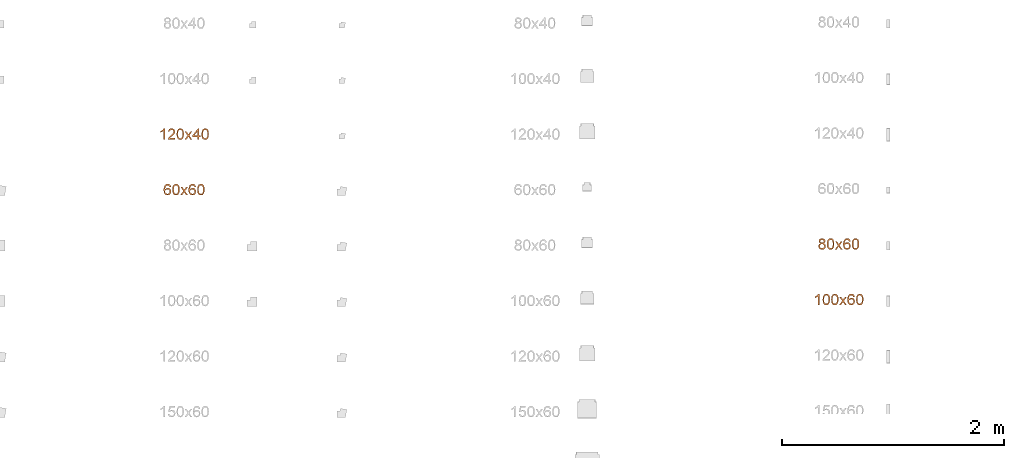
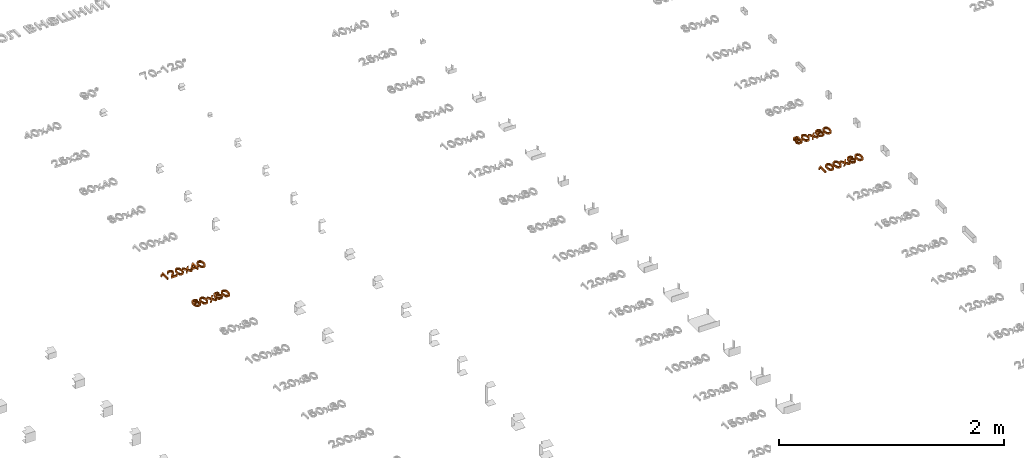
# One storey, part 59 of 71: 4 proxies.
"""IFC2X3 building model written with IfcOpenShell, lengths in millimetres."""

from ifc_helpers import new_model, entity, si_unit, converted_unit, derived_unit, direction, frame, origin, place, context, subcontext, project, spatial, polyline, outline, extrude, element, save


model = new_model("IFC2X3")

# Units and contexts
model_context = context("Model", 3, precision=0.01, world=origin(), true_north=direction((6.12303176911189e-17, 1.0)))
body_context = subcontext(model_context, "Body", "Model", "MODEL_VIEW")
ifc_project = project(units=[si_unit("LENGTHUNIT", "METRE", prefix="MILLI"), si_unit("AREAUNIT", "SQUARE_METRE"), si_unit("VOLUMEUNIT", "CUBIC_METRE"), converted_unit("PLANEANGLEUNIT", "DEGREE", entity("IfcRatioMeasure", 0.0174532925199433), si_unit("PLANEANGLEUNIT", "RADIAN"), dimensions=[0, 0, 0, 0, 0, 0, 0]), si_unit("MASSUNIT", "GRAM", prefix="KILO"), derived_unit("MASSDENSITYUNIT", [(si_unit("MASSUNIT", "GRAM", prefix="KILO"), 1), (si_unit("LENGTHUNIT", "METRE"), -3)]), si_unit("TIMEUNIT", "SECOND"), si_unit("FREQUENCYUNIT", "HERTZ"), si_unit("THERMODYNAMICTEMPERATUREUNIT", "DEGREE_CELSIUS"), derived_unit("THERMALTRANSMITTANCEUNIT", [(si_unit("MASSUNIT", "GRAM", prefix="KILO"), 1), (si_unit("THERMODYNAMICTEMPERATUREUNIT", "KELVIN"), -1), (si_unit("TIMEUNIT", "SECOND"), -3)]), derived_unit("VOLUMETRICFLOWRATEUNIT", [(si_unit("LENGTHUNIT", "METRE"), 3), (si_unit("TIMEUNIT", "SECOND"), -1)]), si_unit("ELECTRICCURRENTUNIT", "AMPERE"), si_unit("ELECTRICVOLTAGEUNIT", "VOLT"), si_unit("POWERUNIT", "WATT"), si_unit("FORCEUNIT", "NEWTON", prefix="KILO"), si_unit("ILLUMINANCEUNIT", "LUX"), si_unit("LUMINOUSFLUXUNIT", "LUMEN"), si_unit("LUMINOUSINTENSITYUNIT", "CANDELA"), derived_unit("USERDEFINED", [(si_unit("MASSUNIT", "GRAM", prefix="KILO"), -1), (si_unit("LENGTHUNIT", "METRE"), -2), (si_unit("TIMEUNIT", "SECOND"), 3), (si_unit("LUMINOUSFLUXUNIT", "LUMEN"), 1)]), derived_unit("LINEARVELOCITYUNIT", [(si_unit("LENGTHUNIT", "METRE"), 1), (si_unit("TIMEUNIT", "SECOND"), -1)]), si_unit("PRESSUREUNIT", "PASCAL"), derived_unit("USERDEFINED", [(si_unit("LENGTHUNIT", "METRE"), -2), (si_unit("MASSUNIT", "GRAM", prefix="KILO"), 1), (si_unit("TIMEUNIT", "SECOND"), -2)])], contexts=[model_context])

# Site, building, storey
site_placement = place(None, origin())
site = spatial("IfcSite", under=ifc_project, at=site_placement, Name="Default", CompositionType="ELEMENT")
building_placement = place(site_placement, origin())
building = spatial("IfcBuilding", under=site, at=building_placement, Name="Наименование здания", CompositionType="ELEMENT")
storey_placement = place(building_placement, origin())
storey = spatial("IfcBuildingStorey", under=building, at=storey_placement, Name="Этаж 01", CompositionType="ELEMENT", Elevation=0.0)

# Proxies
proxy_1_placement = place(storey_placement, origin())
element("IfcBuildingElementProxy", 1, at=proxy_1_placement, inside=storey, Name="Текст модели:100 мм Arial", ObjectType="Текст модели:100 мм Arial", context=body_context, shape_type="SweptSolid", body=[
    extrude(outline(polyline([(-63.8793021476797, -16.9184842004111), (36.5770080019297, -16.9184842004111), (36.5770080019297, -8.82508030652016), (23.2106288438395, 2.34626961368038), (11.4629304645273, 20.7526321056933), (-0.407395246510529, 20.7526321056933), (5.9324378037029, 7.53340574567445), (14.4059864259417, -4.3614454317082), (-63.8793021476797, -4.3614454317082), (-63.8793021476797, -16.9184842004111)])), frame((18050.6140165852, 600.54404634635, 0.0), z_axis=(0.0, 0.0, 1.0), x_axis=(0.0, 1.0, 0.0)), (0.0, 0.0, 1.0), 20.0),
    extrude(outline(polyline([(-32.3858783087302, -45.1669477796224), (-32.3858783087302, -57.7239865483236), (33.5385752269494, -57.7239865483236), (32.1896745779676, -49.0664969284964), (24.5622545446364, -35.736905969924), (8.84143061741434, -21.1810416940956), (-12.8390816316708, -0.260818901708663), (-18.2592096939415, 13.9639515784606), (-13.1456499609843, 25.4786580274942), (0.20846646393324, 30.1752848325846), (14.1266686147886, 25.5890226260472), (19.4119066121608, 12.9093565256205), (31.9689453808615, 14.4789863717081), (28.9247218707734, 26.6252235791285), (22.3426998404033, 35.4973110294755), (12.5662358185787, 40.9235704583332), (-0.0613136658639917, 42.7323236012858), (-12.7808336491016, 40.721235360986), (-22.5389035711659, 34.6879706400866), (-28.7469122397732, 25.6748617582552), (-30.8162484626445, 14.7242410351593), (-28.5844310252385, 2.81712712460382), (-21.1654774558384, -9.49465698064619), (-3.17604789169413, -26.6992716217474), (11.2694517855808, -38.7780637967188), (16.9348345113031, -45.1669477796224), (-32.3858783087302, -45.1669477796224)])), frame((18129.3244132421, 594.388730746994, 0.0), z_axis=(0.0, 0.0, -1.0), x_axis=(-1.0, 0.0, 0.0)), (0.0, 0.0, -1.0), 20.0),
    extrude(outline(polyline([(-7.02884310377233, -33.3490673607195), (17.5323805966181, -33.3490673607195), (35.1984171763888, -27.6137612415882), (43.3439841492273, -18.4876517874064), (47.0516941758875, -5.75150665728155), (46.7162020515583, 4.48638208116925), (43.446577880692, 13.0955287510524), (27.9444305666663, 25.6659118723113), (-0.314338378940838, 32.2325535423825), (-24.0296505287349, 32.3678288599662), (-39.4143020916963, 28.0260881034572), (-49.7293680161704, 18.9002174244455), (-54.4436715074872, 4.63998875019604), (-50.8676582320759, -14.1301059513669), (-35.4058547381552, -26.7333390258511), (-7.02884310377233, -33.3490673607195)]), holes=[polyline([(-5.77428774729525, -20.8548320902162), (-25.0157644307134, -17.3562860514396), (-36.7257089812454, -11.5717922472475), (-41.096258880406, -4.77599682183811), (-41.9669219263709, 3.21464792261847), (-39.2244253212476, 11.2791292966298), (-32.8654063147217, 17.2229259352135), (-20.9698370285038, 20.2947501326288), (-1.6176895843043, 19.7433141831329), (17.8514140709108, 16.2707701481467), (28.7803640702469, 10.7141596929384), (33.5546988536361, 3.6181595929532), (34.5599568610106, -4.47255337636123), (31.9421230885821, -12.1923199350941), (25.8471825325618, -18.175480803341), (14.0250679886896, -21.4027476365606), (-5.77428774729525, -20.8548320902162)])]), frame((18208.158867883, 582.487921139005, 0.0), z_axis=(0.0, 0.0, 1.0), x_axis=(0.1018515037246, -0.994799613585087, 0.0)), (0.0, 0.0, 1.0), 20.0),
    extrude(outline(polyline([(-34.530221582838, -38.4265006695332), (-19.422534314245, -38.4265006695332), (-0.341721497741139, -12.0616243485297), (2.47870713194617, -16.1328517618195), (17.8561745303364, -38.4265006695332), (32.9638617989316, -38.4265006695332), (7.40832586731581, -1.34399555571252), (33.944880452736, 35.3461020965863), (18.8371931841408, 35.3461020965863), (4.95577923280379, 16.1671874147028), (0.0261604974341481, 9.34910777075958), (-5.66374769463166, 17.6877663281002), (-17.8529044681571, 35.3461020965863), (-32.9605917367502, 35.3461020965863), (-7.6993614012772, -1.34399555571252), (-34.530221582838, -38.4265006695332)])), frame((18281.0005248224, 575.091244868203, 0.0)), (0.0, 0.0, 1.0), 20.0),
    extrude(outline(polyline([(-1.14154897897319, -36.3868737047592), (11.4154897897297, -36.3868737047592), (11.4154897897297, -12.8424260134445), (23.9725285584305, -12.8424260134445), (23.9725285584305, -0.285387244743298), (11.4154897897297, -0.285387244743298), (11.4154897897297, 62.4998065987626), (1.99771071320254, 62.4998065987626), (-46.6608145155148, -0.285387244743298), (-46.6608145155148, -12.8424260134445), (-1.14154897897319, -12.8424260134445), (-1.14154897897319, -36.3868737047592)]), holes=[polyline([(-1.14154897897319, -0.285387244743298), (-31.2097707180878, -0.285387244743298), (-1.14154897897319, 38.5139005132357), (-1.14154897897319, -0.285387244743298)])]), frame((18363.764460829, 573.051617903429, 0.0)), (0.0, 0.0, 1.0), 20.0),
    extrude(outline(polyline([(-7.02884310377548, -33.349067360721), (17.5323805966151, -33.349067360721), (35.1984171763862, -27.6137612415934), (43.3439841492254, -18.4876517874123), (47.051694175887, -5.75150665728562), (46.7162020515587, 4.48638208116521), (43.4465778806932, 13.0955287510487), (27.9444305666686, 25.6659118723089), (-0.31433837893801, 32.2325535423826), (-24.0296505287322, 32.3678288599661), (-39.4143020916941, 28.0260881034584), (-49.7293680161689, 18.9002174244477), (-54.4436715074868, 4.63998875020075), (-50.8676582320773, -14.1301059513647), (-35.4058547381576, -26.733339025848), (-7.02884310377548, -33.349067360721)]), holes=[polyline([(-5.7742877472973, -20.8548320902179), (-25.0157644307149, -17.3562860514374), (-36.7257089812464, -11.5717922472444), (-41.0962588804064, -4.77599682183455), (-41.9669219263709, 3.21464792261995), (-39.2244253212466, 11.2791292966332), (-32.8654063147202, 17.2229259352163), (-20.9698370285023, 20.2947501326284), (-1.61768958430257, 19.743314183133), (17.8514140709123, 16.2707701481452), (28.7803640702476, 10.7141596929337), (33.5546988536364, 3.6181595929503), (34.5599568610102, -4.47255337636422), (31.9421230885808, -12.192319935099), (25.84718253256, -18.1754808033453), (14.0250679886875, -21.402747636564), (-5.7742877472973, -20.8548320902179)])]), frame((18432.6159358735, 582.487921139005, 0.0), z_axis=(0.0, 0.0, 1.0), x_axis=(0.101851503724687, -0.994799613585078, 0.0)), (0.0, 0.0, 1.0), 20.0),
])
proxy_2_placement = place(storey_placement, origin())
element("IfcBuildingElementProxy", 2, at=proxy_2_placement, inside=storey, Name="Текст модели:100 мм Arial", ObjectType="Текст модели:100 мм Arial", context=body_context, shape_type="SweptSolid", body=[
    extrude(outline(polyline([(6.79275401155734, -32.5027761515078), (18.3659045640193, -32.5027761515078), (28.152520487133, -28.8011371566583), (35.631293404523, -21.7178704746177), (40.2809149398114, -11.5729874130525), (41.4130789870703, 3.23667074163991), (36.1391243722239, 16.3729018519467), (21.8599739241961, 28.8803269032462), (-1.50836821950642, 38.2054593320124), (-23.6059131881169, 41.7609274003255), (-39.9814227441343, 38.5965283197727), (-51.1650797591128, 29.9216784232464), (-57.6870671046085, 16.9457940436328), (-57.9805556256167, -0.0494879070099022), (-49.2081886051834, -14.3141019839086), (-33.6167855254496, -22.935056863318), (-20.6265742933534, -24.250233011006), (-8.97800352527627, -20.6254922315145), (0.0919027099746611, -13.0350962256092), (5.34612034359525, -2.45330669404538), (5.85483161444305, 11.6447254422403), (-0.843339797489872, 24.9910631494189), (19.7707676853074, 15.5765036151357), (28.4840991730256, 4.26766164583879), (28.3893512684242, -7.46374532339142), (19.995625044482, -18.1936336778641), (8.63303585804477, -19.9825396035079), (6.79275401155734, -32.5027761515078)]), holes=[polyline([(-18.7586717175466, 29.9549594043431), (-11.632811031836, 26.3613362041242), (-6.94154076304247, 20.2038317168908), (-5.85783236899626, 4.13761066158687), (-9.48331864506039, -3.95286412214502), (-15.1077394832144, -9.26901644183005), (-22.3091633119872, -11.5969098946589), (-30.6656585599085, -10.7226080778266), (-38.6094491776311, -7.06141592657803), (-43.8637090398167, -1.22509865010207), (-46.1835287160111, 6.17768396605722), (-45.3239987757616, 14.5382721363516), (-39.690117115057, 24.7221971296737), (-30.0168134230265, 30.0585493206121), (-18.7586717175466, 29.9549594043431)])]), frame((18093.7454554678, 95.2124824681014, 0.0), z_axis=(0.0, 0.0, 1.0), x_axis=(-0.267015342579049, 0.963692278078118, 0.0)), (0.0, 0.0, 1.0), 20.0),
    extrude(outline(polyline([(-7.02884310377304, -33.349067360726), (17.5323805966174, -33.349067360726), (35.1984171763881, -27.6137612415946), (43.3439841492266, -18.4876517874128), (47.0516941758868, -5.75150665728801), (46.7162020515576, 4.48638208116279), (43.4465778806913, 13.095528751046), (27.9444305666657, 25.6659118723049), (-0.314338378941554, 32.2325535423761), (-24.0296505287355, 32.3678288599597), (-39.414302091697, 28.0260881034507), (-49.7293680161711, 18.900217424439), (-54.4436715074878, 4.63998875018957), (-50.8676582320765, -14.1301059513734), (-35.4058547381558, -26.7333390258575), (-7.02884310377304, -33.349067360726)]), holes=[polyline([(-5.77428774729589, -20.8548320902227), (-25.015764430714, -17.356286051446), (-36.7257089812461, -11.571792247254), (-41.0962588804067, -4.77599682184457), (-41.9669219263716, 3.214647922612), (-39.2244253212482, 11.2791292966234), (-32.8654063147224, 17.222925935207), (-20.9698370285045, 20.2947501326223), (-1.61768958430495, 19.7433141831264), (17.8514140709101, 16.2707701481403), (28.7803640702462, 10.7141596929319), (33.5546988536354, 3.61815959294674), (34.5599568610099, -4.47255337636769), (31.9421230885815, -12.1923199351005), (25.8471825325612, -18.1754808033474), (14.0250679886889, -21.4027476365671), (-5.77428774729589, -20.8548320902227)])]), frame((18169.7029366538, 82.487921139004, 0.0), z_axis=(0.0, 0.0, 1.0), x_axis=(0.1018515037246, -0.994799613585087, 0.0)), (0.0, 0.0, 1.0), 20.0),
    extrude(outline(polyline([(-34.530221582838, -38.4265006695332), (-19.422534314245, -38.4265006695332), (-0.341721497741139, -12.0616243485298), (2.47870713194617, -16.1328517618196), (17.8561745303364, -38.4265006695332), (32.9638617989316, -38.4265006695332), (7.40832586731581, -1.34399555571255), (33.944880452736, 35.3461020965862), (18.8371931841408, 35.3461020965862), (4.95577923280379, 16.1671874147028), (0.0261604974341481, 9.34910777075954), (-5.66374769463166, 17.6877663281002), (-17.8529044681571, 35.3461020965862), (-32.9605917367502, 35.3461020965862), (-7.6993614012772, -1.34399555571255), (-34.530221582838, -38.4265006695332)])), frame((18242.5445935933, 75.0912448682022, 0.0)), (0.0, 0.0, 1.0), 20.0),
    extrude(outline(polyline([(6.79275401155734, -32.5027761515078), (18.3659045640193, -32.5027761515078), (28.1525204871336, -28.8011371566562), (35.631293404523, -21.7178704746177), (40.280914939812, -11.5729874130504), (41.4130789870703, 3.23667074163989), (36.1391243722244, 16.3729018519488), (21.8599739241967, 28.8803269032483), (-1.50836821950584, 38.2054593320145), (-23.6059131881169, 41.7609274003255), (-39.9814227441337, 38.5965283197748), (-51.1650797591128, 29.9216784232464), (-57.6870671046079, 16.9457940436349), (-57.9805556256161, -0.0494879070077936), (-49.2081886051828, -14.3141019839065), (-33.6167855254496, -22.935056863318), (-20.6265742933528, -24.2502330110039), (-8.97800352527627, -20.6254922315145), (0.0919027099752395, -13.0350962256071), (5.34612034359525, -2.45330669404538), (5.85483161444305, 11.6447254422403), (-0.843339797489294, 24.991063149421), (19.7707676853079, 15.5765036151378), (28.4840991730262, 4.26766164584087), (28.3893512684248, -7.46374532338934), (19.9956250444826, -18.1936336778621), (8.63303585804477, -19.9825396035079), (6.79275401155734, -32.5027761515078)]), holes=[polyline([(-18.758671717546, 29.9549594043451), (-11.632811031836, 26.3613362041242), (-6.94154076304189, 20.2038317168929), (-5.85783236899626, 4.13761066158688), (-9.48331864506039, -3.95286412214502), (-15.1077394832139, -9.26901644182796), (-22.3091633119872, -11.5969098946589), (-30.6656585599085, -10.7226080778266), (-38.6094491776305, -7.06141592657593), (-43.8637090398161, -1.22509865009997), (-46.1835287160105, 6.17768396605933), (-45.323998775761, 14.5382721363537), (-39.690117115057, 24.7221971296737), (-30.0168134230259, 30.0585493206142), (-18.758671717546, 29.9549594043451)])]), frame((18318.2025234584, 95.2124824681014, 0.0), z_axis=(0.0, 0.0, 1.0), x_axis=(-0.267015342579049, 0.963692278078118, 0.0)), (0.0, 0.0, 1.0), 20.0),
    extrude(outline(polyline([(-7.02884310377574, -33.3490673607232), (17.5323805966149, -33.3490673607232), (35.1984171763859, -27.6137612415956), (43.3439841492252, -18.4876517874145), (47.0516941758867, -5.7515066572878), (46.7162020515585, 4.48638208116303), (43.4465778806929, 13.0955287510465), (27.9444305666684, 25.6659118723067), (-0.314338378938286, 32.2325535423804), (-24.0296505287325, 32.367828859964), (-39.4143020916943, 28.0260881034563), (-49.7293680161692, 18.9002174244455), (-54.443671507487, 4.63998875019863), (-50.8676582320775, -14.1301059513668), (-35.4058547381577, -26.7333390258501), (-7.02884310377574, -33.3490673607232)]), holes=[polyline([(-5.7742877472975, -20.85483209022), (-25.0157644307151, -17.3562860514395), (-36.7257089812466, -11.5717922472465), (-41.0962588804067, -4.77599682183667), (-41.9669219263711, 3.21464792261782), (-39.2244253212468, 11.2791292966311), (-32.8654063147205, 17.2229259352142), (-20.9698370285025, 20.2947501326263), (-1.61768958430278, 19.7433141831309), (17.851414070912, 16.270770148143), (28.7803640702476, 10.7141596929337), (33.5546988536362, 3.61815959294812), (34.55995686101, -4.4725533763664), (31.9421230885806, -12.1923199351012), (25.8471825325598, -18.1754808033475), (14.0250679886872, -21.4027476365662), (-5.7742877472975, -20.85483209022)])]), frame((18394.1600046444, 82.487921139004, 0.0), z_axis=(0.0, 0.0, 1.0), x_axis=(0.101851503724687, -0.994799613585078, 0.0)), (0.0, 0.0, 1.0), 20.0),
])
proxy_3_placement = place(storey_placement, origin())
element("IfcBuildingElementProxy", 3, at=proxy_3_placement, inside=storey, Name="Текст модели:100 мм Arial", ObjectType="Текст модели:100 мм Arial", context=body_context, shape_type="SweptSolid", body=[
    extrude(outline(polyline([(10.1224324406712, -11.221212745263), (26.4477736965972, -11.221212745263), (39.6861381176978, -0.090941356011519), (44.6322314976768, 11.3078156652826), (44.5856416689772, 23.416860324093), (39.6073830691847, 34.8346290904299), (29.7584701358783, 44.1595584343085), (17.4236057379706, 49.795656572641), (4.98749274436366, 50.1469317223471), (-6.20047708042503, 45.723606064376), (-14.790911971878, 37.0359017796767), (-20.0781666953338, 21.0056847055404), (-14.5070621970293, 5.37692494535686), (-28.0684052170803, 5.15563707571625), (-37.7221714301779, -2.60845010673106), (-41.5236361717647, -11.9357006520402), (-41.0036870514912, -22.2232653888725), (-36.1916154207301, -32.1870777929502), (-27.1167126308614, -40.5430713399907), (-16.0503295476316, -45.8123091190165), (-5.1824644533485, -46.5706787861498), (4.38453303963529, -43.2361071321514), (11.5483133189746, -36.2265209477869), (15.2516244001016, -24.0826582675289), (10.1224324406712, -11.221212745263)]), holes=[polyline([(1.34077476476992, -28.9039041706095), (-7.53771017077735, -33.9815875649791), (-20.2415350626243, -30.0339976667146), (-28.5905650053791, -19.6902819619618), (-26.9800933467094, -9.13787919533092), (-18.1108932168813, -3.87648928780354), (-5.45128168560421, -7.82385811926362), (3.15927028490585, -18.240304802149), (1.34077476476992, -28.9039041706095)]), polyline([(29.0262968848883, 6.56051660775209), (17.1806533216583, -1.51571690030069), (9.68494123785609, -1.27757268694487), (1.95268767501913, 2.3288558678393), (-4.46267094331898, 8.27886886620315), (-7.64161156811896, 15.3010558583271), (-4.59707955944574, 29.6929468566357), (7.31333657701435, 37.799466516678), (14.8367372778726, 37.4872096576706), (22.6595729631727, 33.8012523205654), (30.3730358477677, 25.5864099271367), (32.5711030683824, 15.5727469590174), (29.0262968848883, 6.56051660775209)])]), frame((23989.3730739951, -401.654222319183, 0.0), z_axis=(0.0, 0.0, 1.0), x_axis=(-0.829266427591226, -0.558853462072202, 0.0)), (0.0, 0.0, 1.0), 20.0),
    extrude(outline(polyline([(-7.02884310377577, -33.3490673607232), (17.5323805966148, -33.3490673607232), (35.1984171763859, -27.6137612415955), (43.3439841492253, -18.4876517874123), (47.0516941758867, -5.75150665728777), (46.7162020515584, 4.48638208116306), (43.4465778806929, 13.0955287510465), (27.9444305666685, 25.6659118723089), (-0.314338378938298, 32.2325535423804), (-24.0296505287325, 32.367828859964), (-39.4143020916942, 28.0260881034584), (-49.7293680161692, 18.9002174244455), (-54.4436715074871, 4.6399887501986), (-50.8676582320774, -14.1301059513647), (-35.4058547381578, -26.7333390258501), (-7.02884310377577, -33.3490673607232)]), holes=[polyline([(-5.77428774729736, -20.8548320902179), (-25.0157644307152, -17.3562860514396), (-36.7257089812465, -11.5717922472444), (-41.0962588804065, -4.77599682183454), (-41.9669219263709, 3.21464792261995), (-39.2244253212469, 11.2791292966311), (-32.8654063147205, 17.2229259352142), (-20.9698370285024, 20.2947501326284), (-1.61768958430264, 19.743314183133), (17.851414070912, 16.270770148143), (28.7803640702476, 10.7141596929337), (33.5546988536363, 3.6181595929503), (34.5599568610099, -4.47255337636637), (31.9421230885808, -12.192319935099), (25.8471825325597, -18.1754808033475), (14.0250679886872, -21.4027476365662), (-5.77428774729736, -20.8548320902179)])]), frame((24067.2152691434, -407.512078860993, 0.0), z_axis=(0.0, 0.0, 1.0), x_axis=(0.101851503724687, -0.994799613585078, 0.0)), (0.0, 0.0, 1.0), 20.0),
    extrude(outline(polyline([(-34.5302215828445, -38.4265006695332), (-19.4225343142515, -38.4265006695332), (-0.341721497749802, -12.0616243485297), (2.47870713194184, -16.1328517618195), (17.8561745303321, -38.4265006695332), (32.9638617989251, -38.4265006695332), (7.40832586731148, -1.34399555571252), (33.9448804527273, 35.3461020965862), (18.8371931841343, 35.3461020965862), (4.95577923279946, 16.1671874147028), (0.0261604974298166, 9.34910777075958), (-5.66374769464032, 17.6877663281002), (-17.8529044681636, 35.3461020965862), (-32.9605917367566, 35.3461020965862), (-7.69936140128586, -1.34399555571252), (-34.5302215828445, -38.4265006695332)])), frame((24140.0569260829, -414.908755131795, 0.0)), (0.0, 0.0, 1.0), 20.0),
    extrude(outline(polyline([(6.79275401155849, -32.5027761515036), (18.3659045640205, -32.5027761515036), (28.1525204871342, -28.8011371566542), (35.6312934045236, -21.7178704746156), (40.2809149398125, -11.5729874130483), (41.4130789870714, 3.23667074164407), (36.139124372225, 16.3729018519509), (21.8599739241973, 28.8803269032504), (-1.50836821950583, 38.2054593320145), (-23.6059131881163, 41.7609274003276), (-39.9814227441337, 38.5965283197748), (-51.1650797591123, 29.9216784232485), (-57.6870671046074, 16.945794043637), (-57.9805556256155, -0.0494879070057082), (-49.2081886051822, -14.3141019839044), (-33.6167855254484, -22.9350568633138), (-20.6265742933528, -24.2502330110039), (-8.9780035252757, -20.6254922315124), (0.0919027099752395, -13.0350962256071), (5.34612034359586, -2.4533066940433), (5.85483161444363, 11.6447254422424), (-0.843339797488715, 24.9910631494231), (19.7707676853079, 15.5765036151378), (28.4840991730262, 4.26766164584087), (28.3893512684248, -7.46374532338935), (19.9956250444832, -18.19363367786), (8.63303585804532, -19.9825396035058), (6.79275401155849, -32.5027761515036)]), holes=[polyline([(-18.7586717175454, 29.9549594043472), (-11.6328110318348, 26.3613362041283), (-6.94154076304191, 20.2038317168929), (-5.85783236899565, 4.13761066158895), (-9.48331864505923, -3.95286412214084), (-15.1077394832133, -9.26901644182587), (-22.3091633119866, -11.5969098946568), (-30.6656585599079, -10.7226080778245), (-38.6094491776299, -7.06141592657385), (-43.863709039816, -1.22509865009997), (-46.1835287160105, 6.17768396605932), (-45.323998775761, 14.5382721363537), (-39.6901171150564, 24.7221971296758), (-30.0168134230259, 30.0585493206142), (-18.7586717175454, 29.9549594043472)])]), frame((24215.714855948, -394.787517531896, 0.0), z_axis=(0.0, 0.0, 1.0), x_axis=(-0.267015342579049, 0.963692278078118, 0.0)), (0.0, 0.0, 1.0), 20.0),
    extrude(outline(polyline([(-7.02884310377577, -33.3490673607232), (17.5323805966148, -33.3490673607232), (35.1984171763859, -27.6137612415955), (43.3439841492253, -18.4876517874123), (47.0516941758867, -5.75150665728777), (46.7162020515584, 4.48638208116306), (43.4465778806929, 13.0955287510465), (27.9444305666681, 25.6659118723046), (-0.314338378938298, 32.2325535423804), (-24.0296505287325, 32.367828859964), (-39.4143020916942, 28.0260881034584), (-49.7293680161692, 18.9002174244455), (-54.4436715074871, 4.6399887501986), (-50.8676582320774, -14.1301059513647), (-35.4058547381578, -26.7333390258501), (-7.02884310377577, -33.3490673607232)]), holes=[polyline([(-5.77428774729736, -20.8548320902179), (-25.0157644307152, -17.3562860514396), (-36.7257089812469, -11.5717922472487), (-41.096258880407, -4.77599682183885), (-41.9669219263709, 3.21464792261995), (-39.2244253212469, 11.2791292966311), (-32.8654063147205, 17.2229259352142), (-20.9698370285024, 20.2947501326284), (-1.61768958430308, 19.7433141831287), (17.851414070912, 16.270770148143), (28.7803640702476, 10.7141596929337), (33.5546988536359, 3.61815959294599), (34.5599568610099, -4.47255337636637), (31.9421230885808, -12.192319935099), (25.8471825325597, -18.1754808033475), (14.0250679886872, -21.4027476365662), (-5.77428774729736, -20.8548320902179)])]), frame((24291.672337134, -407.512078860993, 0.0), z_axis=(0.0, 0.0, 1.0), x_axis=(0.101851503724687, -0.994799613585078, 0.0)), (0.0, 0.0, 1.0), 20.0),
])
proxy_4_placement = place(storey_placement, origin())
element("IfcBuildingElementProxy", 4, at=proxy_4_placement, inside=storey, Name="Текст модели:100 мм Arial", ObjectType="Текст модели:100 мм Arial", context=body_context, shape_type="SweptSolid", body=[
    extrude(outline(polyline([(-63.8793021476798, -16.9184842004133), (36.5770080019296, -16.9184842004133), (36.5770080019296, -8.82508030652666), (23.2106288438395, 2.34626961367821), (11.4629304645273, 20.7526321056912), (-0.407395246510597, 20.7526321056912), (5.93243780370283, 7.53340574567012), (14.4059864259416, -4.3614454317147), (-63.8793021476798, -4.3614454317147), (-63.8793021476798, -16.9184842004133)])), frame((23948.1263490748, -889.455953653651, 0.0), z_axis=(0.0, 0.0, 1.0), x_axis=(0.0, 1.0, 0.0)), (0.0, 0.0, 1.0), 20.0),
    extrude(outline(polyline([(-7.02884310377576, -33.3490673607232), (17.5323805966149, -33.3490673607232), (35.1984171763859, -27.6137612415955), (43.3439841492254, -18.4876517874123), (47.0516941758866, -5.75150665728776), (46.7162020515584, 4.48638208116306), (43.4465778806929, 13.0955287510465), (27.9444305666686, 25.6659118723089), (-0.314338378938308, 32.2325535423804), (-24.0296505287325, 32.367828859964), (-39.4143020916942, 28.0260881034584), (-49.7293680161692, 18.9002174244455), (-54.4436715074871, 4.63998875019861), (-50.8676582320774, -14.1301059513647), (-35.4058547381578, -26.7333390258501), (-7.02884310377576, -33.3490673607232)]), holes=[polyline([(-5.77428774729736, -20.8548320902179), (-25.0157644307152, -17.3562860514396), (-36.7257089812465, -11.5717922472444), (-41.0962588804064, -4.77599682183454), (-41.9669219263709, 3.21464792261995), (-39.2244253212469, 11.2791292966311), (-32.8654063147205, 17.2229259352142), (-20.9698370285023, 20.2947501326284), (-1.61768958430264, 19.743314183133), (17.8514140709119, 16.270770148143), (28.7803640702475, 10.7141596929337), (33.5546988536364, 3.6181595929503), (34.5599568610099, -4.47255337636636), (31.9421230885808, -12.192319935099), (25.8471825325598, -18.1754808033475), (14.0250679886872, -21.4027476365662), (-5.77428774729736, -20.8548320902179)])]), frame((24028.7593379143, -907.512078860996, 0.0), z_axis=(0.0, 0.0, 1.0), x_axis=(0.101851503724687, -0.994799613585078, 0.0)), (0.0, 0.0, 1.0), 20.0),
    extrude(outline(polyline([(-7.02884310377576, -33.3490673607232), (17.5323805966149, -33.3490673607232), (35.1984171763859, -27.6137612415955), (43.3439841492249, -18.4876517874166), (47.0516941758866, -5.75150665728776), (46.7162020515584, 4.48638208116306), (43.4465778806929, 13.0955287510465), (27.9444305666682, 25.6659118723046), (-0.314338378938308, 32.2325535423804), (-24.0296505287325, 32.367828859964), (-39.4143020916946, 28.0260881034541), (-49.7293680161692, 18.9002174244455), (-54.4436715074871, 4.63998875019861), (-50.8676582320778, -14.130105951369), (-35.4058547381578, -26.7333390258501), (-7.02884310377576, -33.3490673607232)]), holes=[polyline([(-5.7742877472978, -20.8548320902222), (-25.0157644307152, -17.3562860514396), (-36.7257089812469, -11.5717922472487), (-41.0962588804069, -4.77599682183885), (-41.9669219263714, 3.21464792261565), (-39.2244253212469, 11.2791292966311), (-32.8654063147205, 17.2229259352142), (-20.9698370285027, 20.2947501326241), (-1.61768958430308, 19.7433141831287), (17.8514140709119, 16.270770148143), (28.7803640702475, 10.7141596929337), (33.554698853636, 3.61815959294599), (34.5599568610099, -4.47255337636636), (31.9421230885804, -12.1923199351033), (25.8471825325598, -18.1754808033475), (14.0250679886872, -21.4027476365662), (-5.7742877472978, -20.8548320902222)])]), frame((24105.6712003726, -907.512078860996, 0.0), z_axis=(0.0, 0.0, 1.0), x_axis=(0.101851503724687, -0.994799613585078, 0.0)), (0.0, 0.0, 1.0), 20.0),
    extrude(outline(polyline([(-34.5302215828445, -38.4265006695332), (-19.4225343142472, -38.4265006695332), (-0.341721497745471, -12.0616243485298), (2.47870713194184, -16.1328517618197), (17.8561745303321, -38.4265006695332), (32.9638617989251, -38.4265006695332), (7.40832586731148, -1.34399555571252), (33.9448804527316, 35.3461020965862), (18.8371931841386, 35.3461020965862), (4.95577923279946, 16.1671874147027), (0.0261604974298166, 9.34910777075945), (-5.66374769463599, 17.6877663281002), (-17.8529044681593, 35.3461020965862), (-32.9605917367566, 35.3461020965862), (-7.69936140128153, -1.34399555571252), (-34.5302215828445, -38.4265006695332)])), frame((24178.512857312, -914.908755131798, 0.0)), (0.0, 0.0, 1.0), 20.0),
    extrude(outline(polyline([(6.79275401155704, -32.5027761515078), (18.3659045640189, -32.5027761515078), (28.1525204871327, -28.8011371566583), (35.6312934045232, -21.7178704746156), (40.2809149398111, -11.5729874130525), (41.4130789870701, 3.23667074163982), (36.1391243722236, 16.3729018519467), (21.8599739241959, 28.8803269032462), (-1.50836821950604, 38.2054593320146), (-23.6059131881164, 41.7609274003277), (-39.9814227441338, 38.5965283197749), (-51.1650797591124, 29.9216784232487), (-57.6870671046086, 16.9457940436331), (-57.9805556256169, -0.0494879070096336), (-49.2081886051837, -14.3141019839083), (-33.6167855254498, -22.9350568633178), (-20.6265742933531, -24.2502330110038), (-8.97800352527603, -20.6254922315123), (0.0919027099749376, -13.035096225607), (5.34612034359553, -2.45330669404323), (5.85483161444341, 11.6447254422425), (-0.843339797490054, 24.991063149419), (19.7707676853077, 15.5765036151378), (28.4840991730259, 4.26766164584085), (28.3893512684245, -7.46374532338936), (19.9956250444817, -18.1936336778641), (8.633035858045, -19.9825396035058), (6.79275401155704, -32.5027761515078)]), holes=[polyline([(-18.7586717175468, 29.9549594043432), (-11.6328110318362, 26.3613362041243), (-6.9415407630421, 20.203831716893), (-5.85783236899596, 4.13761066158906), (-9.48331864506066, -3.95286412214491), (-15.1077394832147, -9.26901644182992), (-22.3091633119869, -11.5969098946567), (-30.6656585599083, -10.7226080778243), (-38.6094491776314, -7.06141592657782), (-43.8637090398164, -1.22509865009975), (-46.1835287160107, 6.17768396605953), (-45.3239987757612, 14.5382721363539), (-39.6901171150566, 24.722197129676), (-30.0168134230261, 30.0585493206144), (-18.7586717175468, 29.9549594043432)])]), frame((24254.1707871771, -894.787517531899, 0.0), z_axis=(0.0, 0.0, 1.0), x_axis=(-0.267015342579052, 0.963692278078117, 0.0)), (0.0, 0.0, 1.0), 20.0),
    extrude(outline(polyline([(-7.02884310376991, -33.3490673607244), (17.5323805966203, -33.3490673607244), (35.1984171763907, -27.6137612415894), (43.3439841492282, -18.487651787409), (47.0516941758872, -5.75150665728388), (46.7162020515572, 4.48638208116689), (43.4465778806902, 13.0955287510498), (27.9444305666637, 25.6659118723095), (-0.314338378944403, 32.2325535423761), (-24.0296505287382, 32.3678288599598), (-39.4143020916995, 28.0260881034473), (-49.7293680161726, 18.9002174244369), (-54.4436715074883, 4.63998875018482), (-50.8676582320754, -14.1301059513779), (-35.4058547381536, -26.7333390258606), (-7.02884310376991, -33.3490673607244)]), holes=[polyline([(-5.77428774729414, -20.8548320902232), (-25.0157644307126, -17.3562860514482), (-36.7257089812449, -11.5717922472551), (-41.0962588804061, -4.77599682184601), (-41.966921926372, 3.21464792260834), (-39.2244253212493, 11.2791292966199), (-32.865406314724, 17.2229259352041), (-20.9698370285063, 20.2947501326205), (-1.61768958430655, 19.7433141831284), (17.8514140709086, 16.2707701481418), (28.7803640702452, 10.7141596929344), (33.5546988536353, 3.61815959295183), (34.5599568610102, -4.47255337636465), (31.9421230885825, -12.1923199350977), (25.847182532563, -18.175480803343), (14.025067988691, -21.4027476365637), (-5.77428774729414, -20.8548320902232)])]), frame((24330.1282683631, -907.512078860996, 0.0), z_axis=(0.0, 0.0, 1.0), x_axis=(0.101851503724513, -0.994799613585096, 0.0)), (0.0, 0.0, 1.0), 20.0),
])

save(model, "model.ifc")
